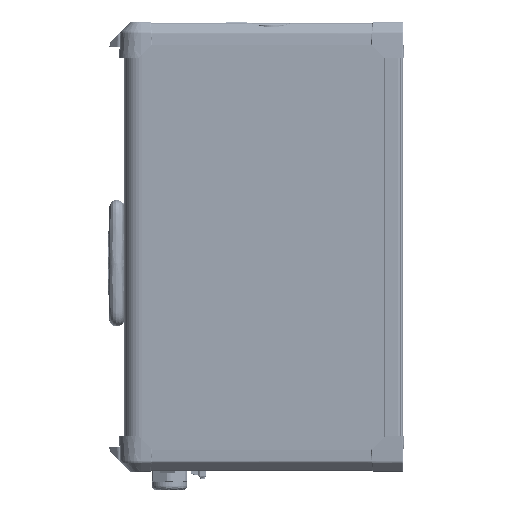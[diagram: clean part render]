
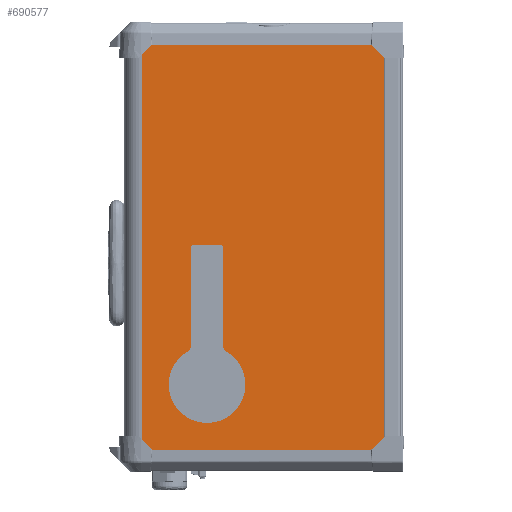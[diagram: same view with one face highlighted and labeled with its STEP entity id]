
A CAD part, left-side view. The second image highlights one B-rep face of the part: STEP entity #690577.
In plain terms, the highlighted planar face has unit normal (-1, 0, 0).
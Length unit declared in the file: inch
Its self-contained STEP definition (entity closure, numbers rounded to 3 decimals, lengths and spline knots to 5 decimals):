
#423 = VERTEX_POINT ( 'NONE', #577207 ) ;
#13690 = LINE ( 'NONE', #429029, #683738 ) ;
#15135 = AXIS2_PLACEMENT_3D ( 'NONE', #642278, #767643, #240399 ) ;
#18125 = CARTESIAN_POINT ( 'NONE',  ( -3.988, 0.854, 9.2945 ) ) ;
#22425 = DIRECTION ( 'NONE',  ( 0., 0., -1. ) ) ;
#22738 = ORIENTED_EDGE ( 'NONE', *, *, #57395, .F. ) ;
#31694 = AXIS2_PLACEMENT_3D ( 'NONE', #555382, #233628, #81808 ) ;
#39444 = ORIENTED_EDGE ( 'NONE', *, *, #294092, .F. ) ;
#42459 = ORIENTED_EDGE ( 'NONE', *, *, #361115, .F. ) ;
#48872 = LINE ( 'NONE', #651858, #166598 ) ;
#56283 = ORIENTED_EDGE ( 'NONE', *, *, #79991, .T. ) ;
#57395 = EDGE_CURVE ( 'NONE', #125460, #795597, #323720, .T. ) ;
#57843 = CIRCLE ( 'NONE', #15135, 1.7925 ) ;
#72904 = VECTOR ( 'NONE', #436678, 39.37008 ) ;
#79991 = EDGE_CURVE ( 'NONE', #125460, #548594, #152452, .T. ) ;
#80874 = LINE ( 'NONE', #840188, #273932 ) ;
#81808 = DIRECTION ( 'NONE',  ( 0., 0., -1. ) ) ;
#87005 = DIRECTION ( 'NONE',  ( -1., 0., 0. ) ) ;
#111340 = DIRECTION ( 'NONE',  ( 0., 0., -1. ) ) ;
#112430 = CARTESIAN_POINT ( 'NONE',  ( -3.988, 8.2345, 0.0955 ) ) ;
#116804 = CARTESIAN_POINT ( 'NONE',  ( -3.988, 9.5095, 0.0955 ) ) ;
#125460 = VERTEX_POINT ( 'NONE', #635405 ) ;
#131396 = CARTESIAN_POINT ( 'NONE',  ( -3.988, 7.98343, -4.85974 ) ) ;
#138785 = AXIS2_PLACEMENT_3D ( 'NONE', #720088, #858658, #841085 ) ;
#142823 = CARTESIAN_POINT ( 'NONE',  ( -3.988, 0.854, 9.6695 ) ) ;
#152452 = CIRCLE ( 'NONE', #766046, 0.375 ) ;
#166598 = VECTOR ( 'NONE', #111340, 39.37008 ) ;
#186021 = PLANE ( 'NONE',  #603634 ) ;
#188529 = CIRCLE ( 'NONE', #31694, 0.25 ) ;
#191675 = CARTESIAN_POINT ( 'NONE',  ( -3.988, 7.8595, -4.64262 ) ) ;
#198880 = DIRECTION ( 'NONE',  ( 0., 1., 0. ) ) ;
#199828 = VERTEX_POINT ( 'NONE', #131396 ) ;
#201549 = VERTEX_POINT ( 'NONE', #116804 ) ;
#201969 = VERTEX_POINT ( 'NONE', #527958 ) ;
#219392 = DIRECTION ( 'NONE',  ( 0., 1., 0. ) ) ;
#231599 = ORIENTED_EDGE ( 'NONE', *, *, #338696, .T. ) ;
#233628 = DIRECTION ( 'NONE',  ( 1., 0., 0. ) ) ;
#236218 = DIRECTION ( 'NONE',  ( -1., 0., 0. ) ) ;
#240399 = DIRECTION ( 'NONE',  ( 0., 0., 1. ) ) ;
#241866 = EDGE_CURVE ( 'NONE', #199828, #325427, #382505, .T. ) ;
#261176 = EDGE_CURVE ( 'NONE', #661181, #595135, #775924, .T. ) ;
#261634 = LINE ( 'NONE', #605285, #349298 ) ;
#261891 = FACE_OUTER_BOUND ( 'NONE', #652717, .T. ) ;
#264357 = CARTESIAN_POINT ( 'NONE',  ( -3.988, 11.914, -9.6695 ) ) ;
#273932 = VECTOR ( 'NONE', #219392, 39.37008 ) ;
#288196 = CARTESIAN_POINT ( 'NONE',  ( -3.988, 11.914, 9.6695 ) ) ;
#294092 = EDGE_CURVE ( 'NONE', #201969, #554939, #849862, .T. ) ;
#298337 = EDGE_CURVE ( 'NONE', #423, #367511, #13690, .T. ) ;
#311864 = EDGE_CURVE ( 'NONE', #706787, #199828, #57843, .T. ) ;
#321199 = DIRECTION ( 'NONE',  ( 1., 0., 0. ) ) ;
#323720 = LINE ( 'NONE', #658831, #840643 ) ;
#325427 = VERTEX_POINT ( 'NONE', #787507 ) ;
#338696 = EDGE_CURVE ( 'NONE', #595135, #630814, #80874, .T. ) ;
#349298 = VECTOR ( 'NONE', #198880, 39.37008 ) ;
#353133 = DIRECTION ( 'NONE',  ( 0., 0., 1. ) ) ;
#354296 = AXIS2_PLACEMENT_3D ( 'NONE', #191675, #321199, #526757 ) ;
#361115 = EDGE_CURVE ( 'NONE', #554939, #201549, #261634, .T. ) ;
#365792 = CARTESIAN_POINT ( 'NONE',  ( -3.988, 11.914, 9.6695 ) ) ;
#367511 = VERTEX_POINT ( 'NONE', #653022 ) ;
#370190 = CARTESIAN_POINT ( 'NONE',  ( -3.988, 8.2345, -0.0295 ) ) ;
#382505 = CIRCLE ( 'NONE', #354296, 0.25 ) ;
#385711 = EDGE_CURVE ( 'NONE', #661181, #548594, #831015, .T. ) ;
#409872 = CIRCLE ( 'NONE', #138785, 0.125 ) ;
#429029 = CARTESIAN_POINT ( 'NONE',  ( -3.988, 9.6345, -0.0295 ) ) ;
#430199 = EDGE_CURVE ( 'NONE', #325427, #201969, #503579, .T. ) ;
#436678 = DIRECTION ( 'NONE',  ( 0., 0., 1. ) ) ;
#470584 = CARTESIAN_POINT ( 'NONE',  ( -3.988, 9.76057, -4.85974 ) ) ;
#490672 = ORIENTED_EDGE ( 'NONE', *, *, #676828, .T. ) ;
#503579 = LINE ( 'NONE', #776137, #72904 ) ;
#511753 = CARTESIAN_POINT ( 'NONE',  ( -3.988, 0.854, -9.2945 ) ) ;
#516215 = DIRECTION ( 'NONE',  ( 0., 0., 1. ) ) ;
#525477 = FACE_BOUND ( 'NONE', #763252, .T. ) ;
#526757 = DIRECTION ( 'NONE',  ( 0., 0., -1. ) ) ;
#527958 = CARTESIAN_POINT ( 'NONE',  ( -3.988, 8.1095, -0.0295 ) ) ;
#536413 = ORIENTED_EDGE ( 'NONE', *, *, #846543, .F. ) ;
#548594 = VERTEX_POINT ( 'NONE', #701380 ) ;
#549718 = DIRECTION ( 'NONE',  ( 0., 0., -1. ) ) ;
#554939 = VERTEX_POINT ( 'NONE', #112430 ) ;
#555382 = CARTESIAN_POINT ( 'NONE',  ( -3.988, 9.8845, -4.64262 ) ) ;
#567424 = DIRECTION ( 'NONE',  ( -1., 0., 0. ) ) ;
#570261 = ORIENTED_EDGE ( 'NONE', *, *, #430199, .F. ) ;
#574476 = DIRECTION ( 'NONE',  ( -1., 0., 0. ) ) ;
#577207 = CARTESIAN_POINT ( 'NONE',  ( -3.988, 9.6345, -0.0295 ) ) ;
#595135 = VERTEX_POINT ( 'NONE', #142823 ) ;
#600560 = DIRECTION ( 'NONE',  ( 0., 1., 0. ) ) ;
#603634 = AXIS2_PLACEMENT_3D ( 'NONE', #288196, #87005, #752877 ) ;
#605285 = CARTESIAN_POINT ( 'NONE',  ( -3.988, 8.2345, 0.0955 ) ) ;
#608470 = VECTOR ( 'NONE', #549718, 39.37008 ) ;
#621390 = AXIS2_PLACEMENT_3D ( 'NONE', #370190, #236218, #772284 ) ;
#630814 = VERTEX_POINT ( 'NONE', #365792 ) ;
#635405 = CARTESIAN_POINT ( 'NONE',  ( -3.988, 0.854, -9.6695 ) ) ;
#642278 = CARTESIAN_POINT ( 'NONE',  ( -3.988, 8.872, -6.4165 ) ) ;
#643575 = ORIENTED_EDGE ( 'NONE', *, *, #311864, .F. ) ;
#651858 = CARTESIAN_POINT ( 'NONE',  ( -3.988, 11.914, 9.6695 ) ) ;
#652717 = EDGE_LOOP ( 'NONE', ( #824941, #838103, #231599, #490672, #22738, #56283 ) ) ;
#653022 = CARTESIAN_POINT ( 'NONE',  ( -3.988, 9.6345, -4.64262 ) ) ;
#658831 = CARTESIAN_POINT ( 'NONE',  ( -3.988, 11.914, -9.6695 ) ) ;
#661181 = VERTEX_POINT ( 'NONE', #756220 ) ;
#676828 = EDGE_CURVE ( 'NONE', #630814, #795597, #48872, .T. ) ;
#683738 = VECTOR ( 'NONE', #22425, 39.37008 ) ;
#690321 = AXIS2_PLACEMENT_3D ( 'NONE', #18125, #567424, #353133 ) ;
#690577 = ADVANCED_FACE ( 'NONE', ( #261891, #525477 ), #186021, .T. ) ;
#701243 = CARTESIAN_POINT ( 'NONE',  ( -3.988, 0.59308, -9.6 ) ) ;
#701380 = CARTESIAN_POINT ( 'NONE',  ( -3.988, 0.59308, -9.56384 ) ) ;
#706468 = ORIENTED_EDGE ( 'NONE', *, *, #241866, .F. ) ;
#706787 = VERTEX_POINT ( 'NONE', #470584 ) ;
#720088 = CARTESIAN_POINT ( 'NONE',  ( -3.988, 9.5095, -0.0295 ) ) ;
#752877 = DIRECTION ( 'NONE',  ( 0., 0., 1. ) ) ;
#756220 = CARTESIAN_POINT ( 'NONE',  ( -3.988, 0.59308, 9.56384 ) ) ;
#763252 = EDGE_LOOP ( 'NONE', ( #797644, #536413, #42459, #39444, #570261, #706468, #643575, #875604 ) ) ;
#766046 = AXIS2_PLACEMENT_3D ( 'NONE', #511753, #574476, #516215 ) ;
#767643 = DIRECTION ( 'NONE',  ( -1., 0., 0. ) ) ;
#772284 = DIRECTION ( 'NONE',  ( 0., 0., 1. ) ) ;
#775924 = CIRCLE ( 'NONE', #690321, 0.375 ) ;
#776137 = CARTESIAN_POINT ( 'NONE',  ( -3.988, 8.1095, -0.0295 ) ) ;
#787507 = CARTESIAN_POINT ( 'NONE',  ( -3.988, 8.1095, -4.64262 ) ) ;
#795597 = VERTEX_POINT ( 'NONE', #264357 ) ;
#797644 = ORIENTED_EDGE ( 'NONE', *, *, #298337, .F. ) ;
#824941 = ORIENTED_EDGE ( 'NONE', *, *, #385711, .F. ) ;
#831015 = LINE ( 'NONE', #701243, #608470 ) ;
#838103 = ORIENTED_EDGE ( 'NONE', *, *, #261176, .T. ) ;
#840188 = CARTESIAN_POINT ( 'NONE',  ( -3.988, 11.914, 9.6695 ) ) ;
#840643 = VECTOR ( 'NONE', #600560, 39.37008 ) ;
#841085 = DIRECTION ( 'NONE',  ( 0., 0., 1. ) ) ;
#846543 = EDGE_CURVE ( 'NONE', #201549, #423, #409872, .T. ) ;
#849862 = CIRCLE ( 'NONE', #621390, 0.125 ) ;
#857068 = EDGE_CURVE ( 'NONE', #367511, #706787, #188529, .T. ) ;
#858658 = DIRECTION ( 'NONE',  ( -1., 0., 0. ) ) ;
#875604 = ORIENTED_EDGE ( 'NONE', *, *, #857068, .F. ) ;
